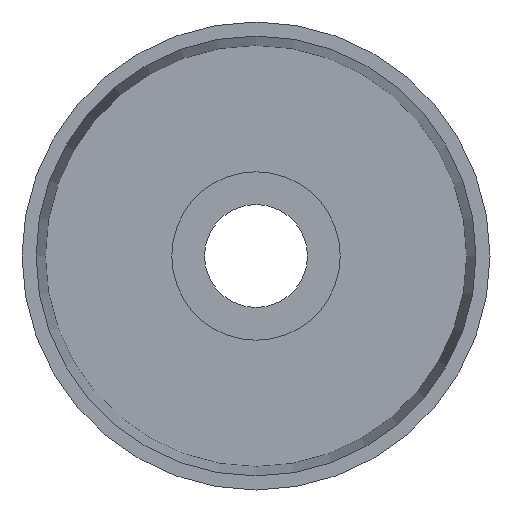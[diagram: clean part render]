
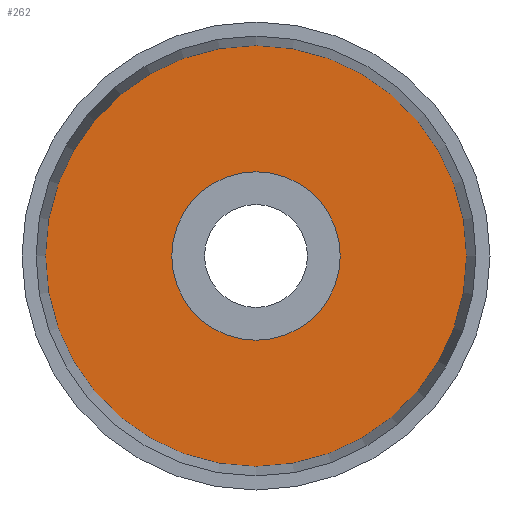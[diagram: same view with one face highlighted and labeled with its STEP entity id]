
A CAD part, left-side view. The second image highlights one B-rep face of the part: STEP entity #262.
In plain terms, the highlighted planar face has unit normal (-1, 0, 0).
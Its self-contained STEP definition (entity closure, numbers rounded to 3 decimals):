
#34=FACE_BOUND('',#66,.T.);
#40=PLANE('',#312);
#50=FACE_OUTER_BOUND('',#65,.T.);
#65=EDGE_LOOP('',(#211,#212));
#66=EDGE_LOOP('',(#213,#214));
#95=CIRCLE('',#313,45.);
#96=CIRCLE('',#314,45.);
#97=CIRCLE('',#315,18.);
#98=CIRCLE('',#316,18.);
#125=VERTEX_POINT('',#476);
#126=VERTEX_POINT('',#477);
#127=VERTEX_POINT('',#480);
#128=VERTEX_POINT('',#481);
#159=EDGE_CURVE('',#125,#126,#95,.T.);
#160=EDGE_CURVE('',#126,#125,#96,.T.);
#161=EDGE_CURVE('',#127,#128,#97,.T.);
#162=EDGE_CURVE('',#128,#127,#98,.T.);
#211=ORIENTED_EDGE('',*,*,#159,.F.);
#212=ORIENTED_EDGE('',*,*,#160,.F.);
#213=ORIENTED_EDGE('',*,*,#161,.T.);
#214=ORIENTED_EDGE('',*,*,#162,.T.);
#262=ADVANCED_FACE('',(#50,#34),#40,.T.);
#312=AXIS2_PLACEMENT_3D('',#475,#383,#384);
#313=AXIS2_PLACEMENT_3D('',#478,#385,#386);
#314=AXIS2_PLACEMENT_3D('',#479,#387,#388);
#315=AXIS2_PLACEMENT_3D('',#482,#389,#390);
#316=AXIS2_PLACEMENT_3D('',#483,#391,#392);
#383=DIRECTION('center_axis',(-1.,0.,0.));
#384=DIRECTION('ref_axis',(0.,0.,1.));
#385=DIRECTION('center_axis',(1.,0.,0.));
#386=DIRECTION('ref_axis',(0.,0.,-1.));
#387=DIRECTION('center_axis',(1.,0.,0.));
#388=DIRECTION('ref_axis',(0.,0.,-1.));
#389=DIRECTION('center_axis',(1.,0.,0.));
#390=DIRECTION('ref_axis',(0.,0.,-1.));
#391=DIRECTION('center_axis',(1.,0.,0.));
#392=DIRECTION('ref_axis',(0.,0.,-1.));
#475=CARTESIAN_POINT('Origin',(-5.,45.,0.));
#476=CARTESIAN_POINT('',(-5.,45.,0.));
#477=CARTESIAN_POINT('',(-5.,-45.,0.));
#478=CARTESIAN_POINT('Origin',(-5.,0.,0.));
#479=CARTESIAN_POINT('Origin',(-5.,0.,0.));
#480=CARTESIAN_POINT('',(-5.,18.,0.));
#481=CARTESIAN_POINT('',(-5.,-18.,0.));
#482=CARTESIAN_POINT('Origin',(-5.,0.,0.));
#483=CARTESIAN_POINT('Origin',(-5.,0.,0.));
